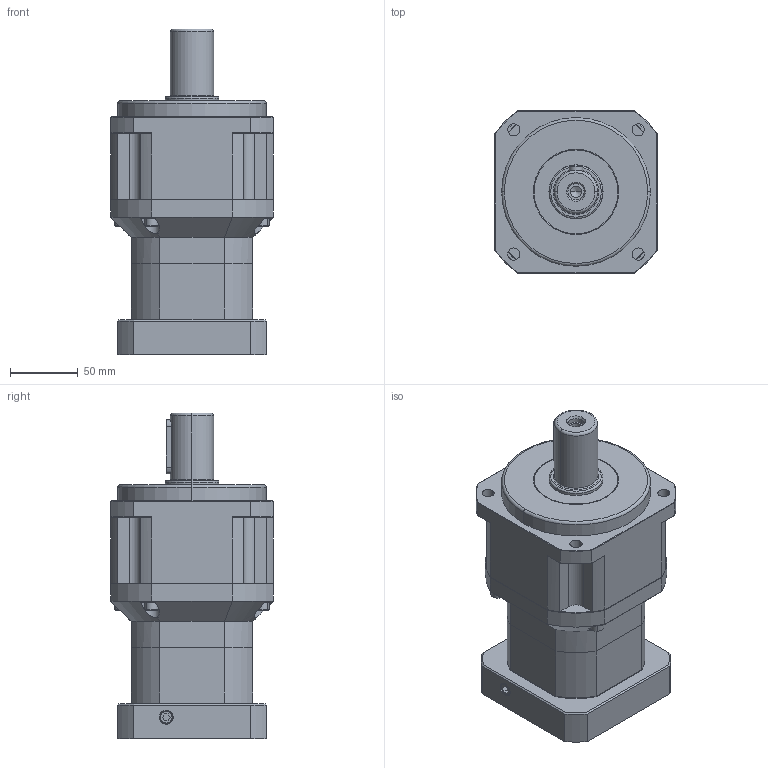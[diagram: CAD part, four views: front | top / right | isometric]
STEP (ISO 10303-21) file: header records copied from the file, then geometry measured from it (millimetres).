
FILE_DESCRIPTION (( 'STEP AP203' ), '1' );
FILE_NAME ('SB120-2-95M8-3.STEP', '2011-07-11T08:47:24', ( '1' ), ( '' ), 'SwSTEP 2.0', 'SolidWorks 2011', '' );
FILE_SCHEMA (( 'CONFIG_CONTROL_DESIGN' ));
Length unit declared in the file: millimetre
Products named in the file (1): SB120-2-95M8-3
Bounding box: 120 x 120 x 241 mm (x, y, z)
Volume: 1718056.8 mm3; surface area: 226493.3 mm2
Topology: 21 solids, 21 shells, 777 faces, 1836 edges, 1128 vertices
Faces by surface type: plane 347, cylinder 244, cone 139, torus 34, bspline 13
Entity records: 23297 total; most frequent: CARTESIAN_POINT 5188, DIRECTION 3911, ORIENTED_EDGE 3604, EDGE_CURVE 1802, AXIS2_PLACEMENT_3D 1475, VERTEX_POINT 1128, VECTOR 961, LINE 961
